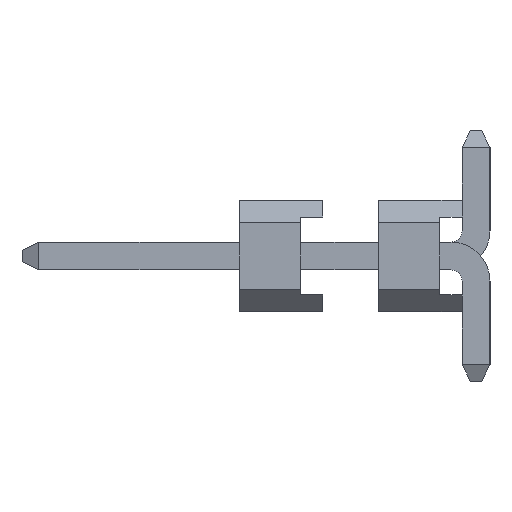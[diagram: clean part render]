
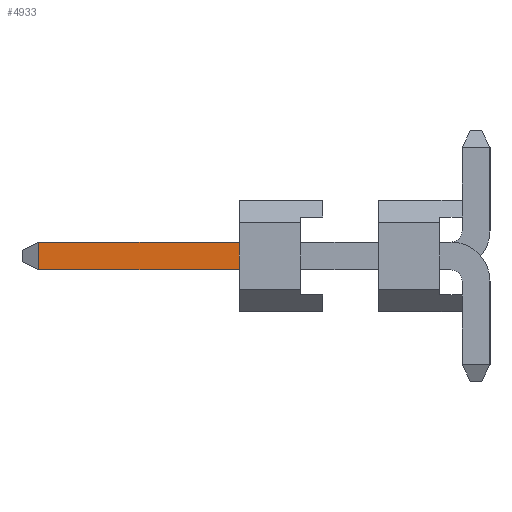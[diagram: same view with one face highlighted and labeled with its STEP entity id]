
A CAD part, left-side view. The second image highlights one B-rep face of the part: STEP entity #4933.
In plain terms, the highlighted planar face has unit normal (-1, 0, 0).
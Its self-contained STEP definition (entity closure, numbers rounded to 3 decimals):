
#3941=FACE_OUTER_BOUND('',#7179,.T.);
#4933=ADVANCED_FACE('',(#3941),#5995,.T.);
#5995=PLANE('',#23596);
#7179=EDGE_LOOP('',(#8508,#8509,#8510,#8511));
#8508=ORIENTED_EDGE('',*,*,#15623,.T.);
#8509=ORIENTED_EDGE('',*,*,#15624,.T.);
#8510=ORIENTED_EDGE('',*,*,#15625,.T.);
#8511=ORIENTED_EDGE('',*,*,#15504,.T.);
#13756=VERTEX_POINT('',#29658);
#13757=VERTEX_POINT('',#29659);
#13834=VERTEX_POINT('',#29897);
#13835=VERTEX_POINT('',#29899);
#15504=EDGE_CURVE('',#13756,#13757,#18240,.T.);
#15623=EDGE_CURVE('',#13757,#13834,#18355,.T.);
#15624=EDGE_CURVE('',#13834,#13835,#18356,.T.);
#15625=EDGE_CURVE('',#13835,#13756,#18357,.T.);
#18240=LINE('',#29657,#20900);
#18355=LINE('',#29896,#21015);
#18356=LINE('',#29898,#21016);
#18357=LINE('',#29900,#21017);
#20900=VECTOR('',#24705,1.);
#21015=VECTOR('',#24912,1.);
#21016=VECTOR('',#24913,1.);
#21017=VECTOR('',#24914,1.);
#23596=AXIS2_PLACEMENT_3D('',#29901,#24915,#24916);
#24705=DIRECTION('',(0.,0.,1.));
#24912=DIRECTION('',(0.,1.,0.));
#24913=DIRECTION('',(0.,0.,-1.));
#24914=DIRECTION('',(0.,-1.,0.));
#24915=DIRECTION('',(-1.,0.,0.));
#24916=DIRECTION('',(0.,1.,0.));
#29657=CARTESIAN_POINT('',(-3.202,4.024,0.5));
#29658=CARTESIAN_POINT('',(-3.202,4.024,0.7));
#29659=CARTESIAN_POINT('',(-3.202,4.024,1.2));
#29896=CARTESIAN_POINT('',(-3.202,5.824,1.2));
#29897=CARTESIAN_POINT('',(-3.202,7.624,1.2));
#29898=CARTESIAN_POINT('',(-3.202,7.624,0.7));
#29899=CARTESIAN_POINT('',(-3.202,7.624,0.7));
#29900=CARTESIAN_POINT('',(-3.202,-1.776,0.7));
#29901=CARTESIAN_POINT('',(-3.202,-1.776,0.5));
